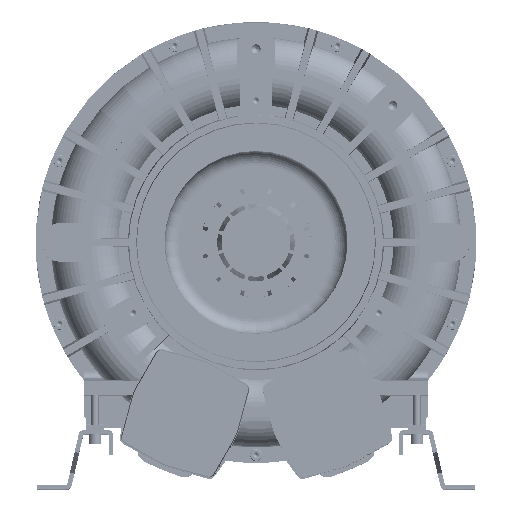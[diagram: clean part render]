
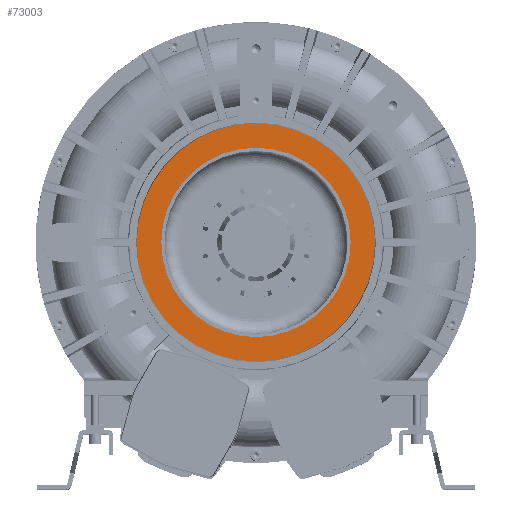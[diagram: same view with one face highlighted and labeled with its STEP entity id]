
A CAD part, top view. The second image highlights one B-rep face of the part: STEP entity #73003.
In plain terms, the highlighted planar face has unit normal (0, 0, 1).
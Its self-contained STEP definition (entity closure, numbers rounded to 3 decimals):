
#6626 = CARTESIAN_POINT ( 'NONE',  ( 0., 0., 196.5 ) ) ;
#6669 = CARTESIAN_POINT ( 'NONE',  ( 0., 0., 196.5 ) ) ;
#25788 = CARTESIAN_POINT ( 'NONE',  ( 0., 0., 196.5 ) ) ;
#26481 = AXIS2_PLACEMENT_3D ( 'NONE', #6626, #114497, #78143 ) ;
#27230 = VERTEX_POINT ( 'NONE', #175077 ) ;
#27468 = VERTEX_POINT ( 'NONE', #117152 ) ;
#55977 = EDGE_CURVE ( 'NONE', #27468, #27468, #88399, .T. ) ;
#65857 = AXIS2_PLACEMENT_3D ( 'NONE', #6669, #190846, #188466 ) ;
#70694 = ORIENTED_EDGE ( 'NONE', *, *, #217889, .T. ) ;
#73003 = ADVANCED_FACE ( 'NONE', ( #97566, #206673 ), #78188, .F. ) ;
#78143 = DIRECTION ( 'NONE',  ( 1., 0., 0. ) ) ;
#78188 = PLANE ( 'NONE',  #65857 ) ;
#82694 = DIRECTION ( 'NONE',  ( 0., 0., 1. ) ) ;
#88399 = CIRCLE ( 'NONE', #26481, 103.5 ) ;
#89786 = AXIS2_PLACEMENT_3D ( 'NONE', #25788, #82694, #213561 ) ;
#97566 = FACE_BOUND ( 'NONE', #156738, .T. ) ;
#114497 = DIRECTION ( 'NONE',  ( 0., 0., 1. ) ) ;
#117152 = CARTESIAN_POINT ( 'NONE',  ( 103.5, 0., 196.5 ) ) ;
#156738 = EDGE_LOOP ( 'NONE', ( #207669 ) ) ;
#163300 = CIRCLE ( 'NONE', #89786, 130.194 ) ;
#175077 = CARTESIAN_POINT ( 'NONE',  ( -130.194, 0., 196.5 ) ) ;
#188466 = DIRECTION ( 'NONE',  ( -1., 0., 0. ) ) ;
#190846 = DIRECTION ( 'NONE',  ( 0., 0., -1. ) ) ;
#206025 = EDGE_LOOP ( 'NONE', ( #70694 ) ) ;
#206673 = FACE_OUTER_BOUND ( 'NONE', #206025, .T. ) ;
#207669 = ORIENTED_EDGE ( 'NONE', *, *, #55977, .F. ) ;
#213561 = DIRECTION ( 'NONE',  ( -1., 0., 0. ) ) ;
#217889 = EDGE_CURVE ( 'NONE', #27230, #27230, #163300, .T. ) ;
